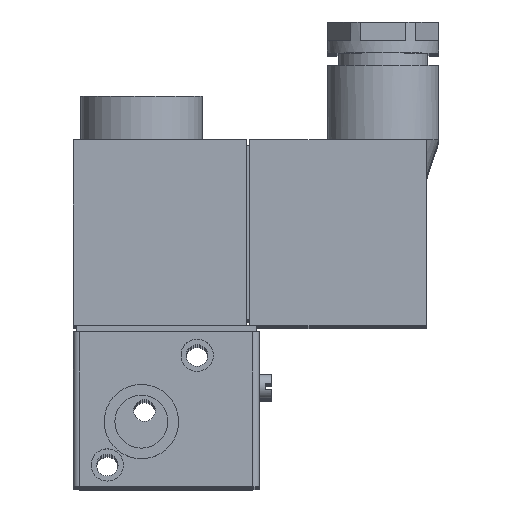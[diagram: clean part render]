
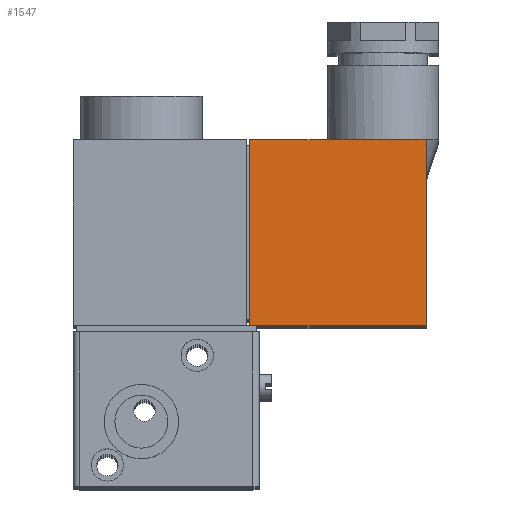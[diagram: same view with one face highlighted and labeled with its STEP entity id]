
A CAD part, top view. The second image highlights one B-rep face of the part: STEP entity #1547.
In plain terms, the highlighted planar face has unit normal (0, 0, 1).
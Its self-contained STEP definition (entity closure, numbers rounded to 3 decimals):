
#251=FACE_OUTER_BOUND('',#364,.T.);
#364=EDGE_LOOP('',(#1306,#1307,#1308,#1309));
#450=LINE('',#2584,#571);
#480=LINE('',#2648,#601);
#482=LINE('',#2654,#603);
#483=LINE('',#2656,#604);
#571=VECTOR('',#2102,1000.);
#601=VECTOR('',#2156,1000.);
#603=VECTOR('',#2164,1000.);
#604=VECTOR('',#2167,1000.);
#780=VERTEX_POINT('',#2581);
#781=VERTEX_POINT('',#2583);
#801=VERTEX_POINT('',#2642);
#803=VERTEX_POINT('',#2646);
#944=EDGE_CURVE('',#780,#781,#450,.T.);
#975=EDGE_CURVE('',#801,#803,#480,.T.);
#979=EDGE_CURVE('',#780,#801,#482,.T.);
#980=EDGE_CURVE('',#781,#803,#483,.T.);
#1306=ORIENTED_EDGE('',*,*,#975,.T.);
#1307=ORIENTED_EDGE('',*,*,#980,.F.);
#1308=ORIENTED_EDGE('',*,*,#944,.F.);
#1309=ORIENTED_EDGE('',*,*,#979,.T.);
#1463=PLANE('',#1762);
#1547=ADVANCED_FACE('',(#251),#1463,.F.);
#1762=AXIS2_PLACEMENT_3D('',#2655,#2165,#2166);
#2102=DIRECTION('',(0.,-1.,0.));
#2156=DIRECTION('',(0.,-1.,0.));
#2164=DIRECTION('',(-1.,0.,0.));
#2165=DIRECTION('center_axis',(0.,0.,-1.));
#2166=DIRECTION('ref_axis',(-1.,0.,0.));
#2167=DIRECTION('',(-1.,0.,0.));
#2581=CARTESIAN_POINT('',(57.,30.,22.));
#2583=CARTESIAN_POINT('',(57.,0.,22.));
#2584=CARTESIAN_POINT('',(57.,30.,22.));
#2642=CARTESIAN_POINT('',(28.5,30.,22.));
#2646=CARTESIAN_POINT('',(28.5,0.,22.));
#2648=CARTESIAN_POINT('',(28.5,30.,22.));
#2654=CARTESIAN_POINT('',(57.,30.,22.));
#2655=CARTESIAN_POINT('Origin',(57.,30.,22.));
#2656=CARTESIAN_POINT('',(57.,0.,22.));
